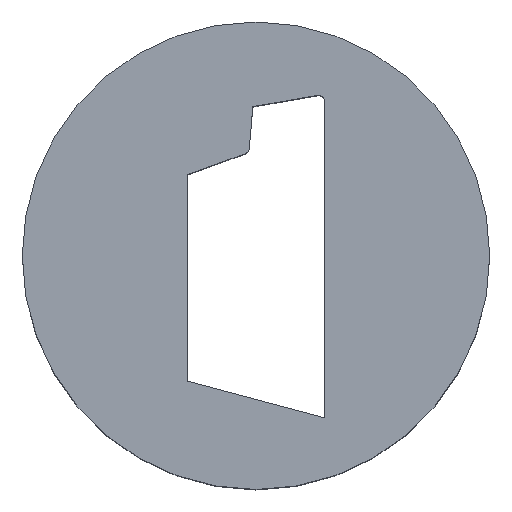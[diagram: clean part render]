
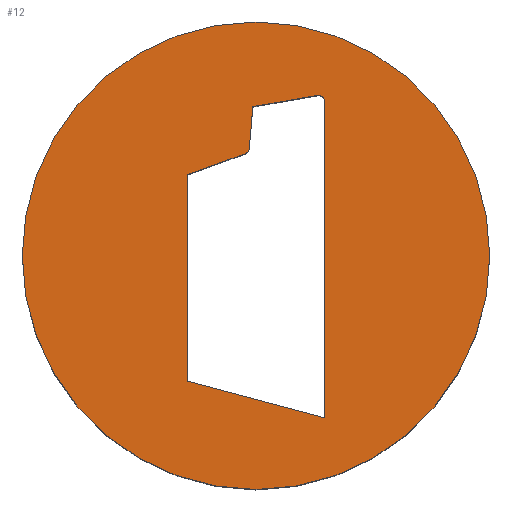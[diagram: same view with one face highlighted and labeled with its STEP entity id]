
A CAD part, top view. The second image highlights one B-rep face of the part: STEP entity #12.
In plain terms, the highlighted planar face has unit normal (0, 0, 1).
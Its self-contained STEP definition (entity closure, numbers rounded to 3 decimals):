
#8 = EDGE_CURVE ( 'NONE', #80, #79, #358, .T. ) ;
#12 = ADVANCED_FACE ( 'NONE', ( #345, #344 ), #343, .T. ) ;
#13 = EDGE_LOOP ( 'NONE', ( #14, #18, #21, #85, #88, #91, #94, #97 ) ) ;
#14 = ORIENTED_EDGE ( 'NONE', *, *, #15, .F. ) ;
#15 = EDGE_CURVE ( 'NONE', #16, #17, #338, .T. ) ;
#16 = VERTEX_POINT ( 'NONE', #334 ) ;
#17 = VERTEX_POINT ( 'NONE', #333 ) ;
#18 = ORIENTED_EDGE ( 'NONE', *, *, #19, .F. ) ;
#19 = EDGE_CURVE ( 'NONE', #20, #16, #332, .T. ) ;
#20 = VERTEX_POINT ( 'NONE', #295 ) ;
#21 = ORIENTED_EDGE ( 'NONE', *, *, #84, .F. ) ;
#22 = VERTEX_POINT ( 'NONE', #294 ) ;
#58 = ORIENTED_EDGE ( 'NONE', *, *, #8, .T. ) ;
#72 = EDGE_LOOP ( 'NONE', ( #58, #75 ) ) ;
#73 = EDGE_CURVE ( 'NONE', #17, #96, #303, .T. ) ;
#75 = ORIENTED_EDGE ( 'NONE', *, *, #78, .T. ) ;
#78 = EDGE_CURVE ( 'NONE', #79, #80, #297, .T. ) ;
#79 = VERTEX_POINT ( 'NONE', #159 ) ;
#80 = VERTEX_POINT ( 'NONE', #158 ) ;
#84 = EDGE_CURVE ( 'NONE', #22, #20, #150, .T. ) ;
#85 = ORIENTED_EDGE ( 'NONE', *, *, #86, .F. ) ;
#86 = EDGE_CURVE ( 'NONE', #87, #22, #146, .T. ) ;
#87 = VERTEX_POINT ( 'NONE', #142 ) ;
#88 = ORIENTED_EDGE ( 'NONE', *, *, #89, .F. ) ;
#89 = EDGE_CURVE ( 'NONE', #90, #87, #141, .T. ) ;
#90 = VERTEX_POINT ( 'NONE', #137 ) ;
#91 = ORIENTED_EDGE ( 'NONE', *, *, #92, .F. ) ;
#92 = EDGE_CURVE ( 'NONE', #93, #90, #246, .T. ) ;
#93 = VERTEX_POINT ( 'NONE', #241 ) ;
#94 = ORIENTED_EDGE ( 'NONE', *, *, #95, .F. ) ;
#95 = EDGE_CURVE ( 'NONE', #96, #93, #240, .T. ) ;
#96 = VERTEX_POINT ( 'NONE', #235 ) ;
#97 = ORIENTED_EDGE ( 'NONE', *, *, #73, .F. ) ;
#137 = CARTESIAN_POINT ( 'NONE',  ( 1.965, 5.147, 9. ) ) ;
#138 = DIRECTION ( 'NONE',  ( -0.985, -0.174, 0. ) ) ;
#139 = VECTOR ( 'NONE', #138, 1000. ) ;
#140 = CARTESIAN_POINT ( 'NONE',  ( 1.965, 5.147, 9. ) ) ;
#141 = LINE ( 'NONE', #140, #139 ) ;
#142 = CARTESIAN_POINT ( 'NONE',  ( -0.1, 4.783, 9. ) ) ;
#143 = DIRECTION ( 'NONE',  ( -0.087, -0.996, 0. ) ) ;
#144 = VECTOR ( 'NONE', #143, 1000. ) ;
#145 = CARTESIAN_POINT ( 'NONE',  ( -0.1, 4.783, 9. ) ) ;
#146 = LINE ( 'NONE', #145, #144 ) ;
#147 = DIRECTION ( 'NONE',  ( 1., 0., 0. ) ) ;
#148 = DIRECTION ( 'NONE',  ( 0., 0., -1. ) ) ;
#149 = AXIS2_PLACEMENT_3D ( 'NONE', #155, #148, #147 ) ;
#150 = CIRCLE ( 'NONE', #149, 0.2 ) ;
#155 = CARTESIAN_POINT ( 'NONE',  ( -0.416, 3.462, 9. ) ) ;
#158 = CARTESIAN_POINT ( 'NONE',  ( -7.5, 0., 9. ) ) ;
#159 = CARTESIAN_POINT ( 'NONE',  ( 7.5, 0., 9. ) ) ;
#160 = DIRECTION ( 'NONE',  ( 1., 0., 0. ) ) ;
#161 = DIRECTION ( 'NONE',  ( 0., 0., 1. ) ) ;
#162 = CARTESIAN_POINT ( 'NONE',  ( 0., 0., 9. ) ) ;
#163 = AXIS2_PLACEMENT_3D ( 'NONE', #162, #161, #160 ) ;
#235 = CARTESIAN_POINT ( 'NONE',  ( 2.2, -5.2, 9. ) ) ;
#237 = DIRECTION ( 'NONE',  ( 0., 1., 0. ) ) ;
#238 = VECTOR ( 'NONE', #237, 1000. ) ;
#239 = CARTESIAN_POINT ( 'NONE',  ( 2.2, -5.2, 9. ) ) ;
#240 = LINE ( 'NONE', #239, #238 ) ;
#241 = CARTESIAN_POINT ( 'NONE',  ( 2.2, 4.95, 9. ) ) ;
#242 = DIRECTION ( 'NONE',  ( 1., 0., 0. ) ) ;
#243 = DIRECTION ( 'NONE',  ( 0., 0., 1. ) ) ;
#244 = CARTESIAN_POINT ( 'NONE',  ( 2., 4.95, 9. ) ) ;
#245 = AXIS2_PLACEMENT_3D ( 'NONE', #244, #243, #242 ) ;
#246 = CIRCLE ( 'NONE', #245, 0.2 ) ;
#294 = CARTESIAN_POINT ( 'NONE',  ( -0.217, 3.445, 9. ) ) ;
#295 = CARTESIAN_POINT ( 'NONE',  ( -0.348, 3.274, 9. ) ) ;
#296 = VECTOR ( 'NONE', #330, 1000. ) ;
#297 = CIRCLE ( 'NONE', #163, 7.5 ) ;
#300 = DIRECTION ( 'NONE',  ( 0.966, -0.259, 0. ) ) ;
#301 = VECTOR ( 'NONE', #300, 1000. ) ;
#302 = CARTESIAN_POINT ( 'NONE',  ( -2.2, -4.021, 9. ) ) ;
#303 = LINE ( 'NONE', #302, #301 ) ;
#330 = DIRECTION ( 'NONE',  ( -0.94, -0.342, 0. ) ) ;
#331 = CARTESIAN_POINT ( 'NONE',  ( -0.348, 3.274, 9. ) ) ;
#332 = LINE ( 'NONE', #331, #296 ) ;
#333 = CARTESIAN_POINT ( 'NONE',  ( -2.2, -4.021, 9. ) ) ;
#334 = CARTESIAN_POINT ( 'NONE',  ( -2.2, 2.6, 9. ) ) ;
#335 = DIRECTION ( 'NONE',  ( 0., -1., 0. ) ) ;
#336 = VECTOR ( 'NONE', #335, 1000. ) ;
#337 = CARTESIAN_POINT ( 'NONE',  ( -2.2, 2.6, 9. ) ) ;
#338 = LINE ( 'NONE', #337, #336 ) ;
#339 = DIRECTION ( 'NONE',  ( 1., 0., 0. ) ) ;
#340 = DIRECTION ( 'NONE',  ( 0., 0., 1. ) ) ;
#341 = CARTESIAN_POINT ( 'NONE',  ( 0., 0., 9. ) ) ;
#342 = AXIS2_PLACEMENT_3D ( 'NONE', #341, #340, #339 ) ;
#343 = PLANE ( 'NONE',  #342 ) ;
#344 = FACE_OUTER_BOUND ( 'NONE', #72, .T. ) ;
#345 = FACE_BOUND ( 'NONE', #13, .T. ) ;
#351 = DIRECTION ( 'NONE',  ( 1., 0., 0. ) ) ;
#352 = DIRECTION ( 'NONE',  ( 0., 0., 1. ) ) ;
#353 = CARTESIAN_POINT ( 'NONE',  ( 0., 0., 9. ) ) ;
#354 = AXIS2_PLACEMENT_3D ( 'NONE', #353, #352, #351 ) ;
#358 = CIRCLE ( 'NONE', #354, 7.5 ) ;
